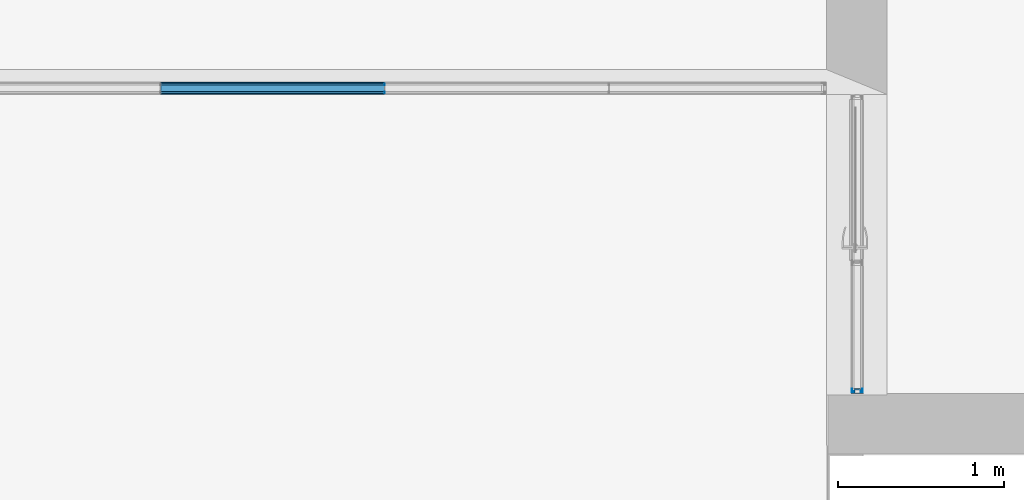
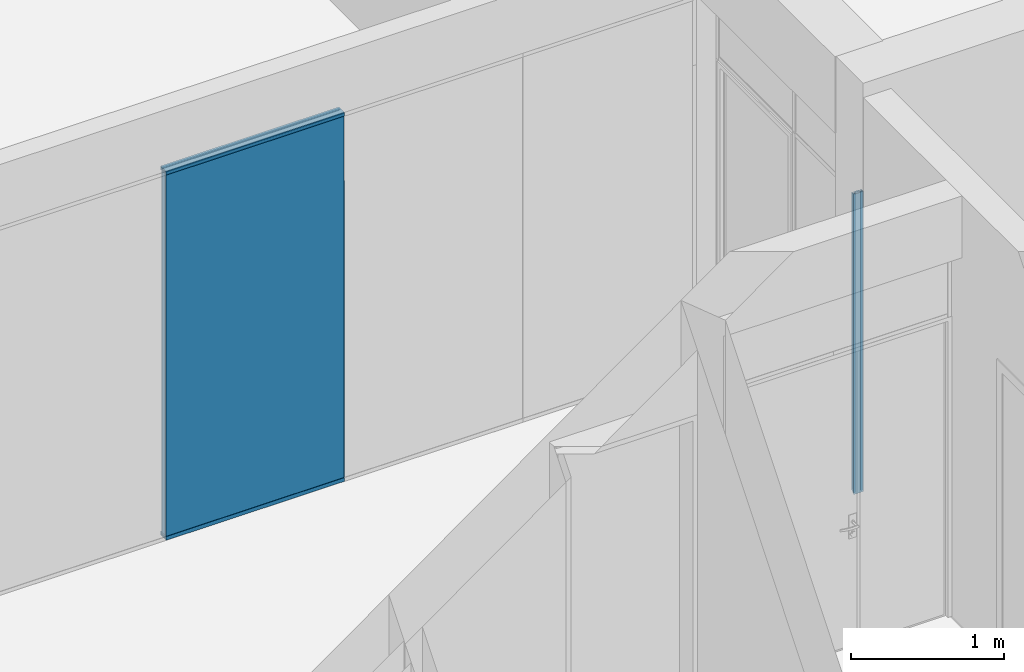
# One storey, part 24 of 89: 9 building element parts, 7 elements without a shape of their own.
"""IFC2X3 building model written with IfcOpenShell, lengths in millimetres."""

from ifc_helpers import new_model, entity, si_unit, converted_unit, derived_unit, money_unit, direction, frame, origin_with_axes, place, context, subcontext, project, spatial, faceted_brep, source, transform, mapped, material, type_object, element, aggregate, save


model = new_model("IFC2X3")

# Units and contexts
model_context = context("Model", 3, precision=0.01, world=origin_with_axes(), true_north=direction((0.0, 1.0)))
body_context = subcontext(model_context, "Body", "Model", "MODEL_VIEW")
ifc_project = project(units=[si_unit("LENGTHUNIT", "METRE", prefix="MILLI"), si_unit("AREAUNIT", "SQUARE_METRE"), si_unit("VOLUMEUNIT", "CUBIC_METRE"), converted_unit("PLANEANGLEUNIT", "DEGREE", entity("IfcPlaneAngleMeasure", 0.0174532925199), si_unit("PLANEANGLEUNIT", "RADIAN"), dimensions=[0, 0, 0, 0, 0, 0, 0]), si_unit("SOLIDANGLEUNIT", "STERADIAN"), money_unit("EUR"), converted_unit("TIMEUNIT", "Year", entity("IfcTimeMeasure", 31556926.0), si_unit("TIMEUNIT", "SECOND"), dimensions=[0, 0, 1, 0, 0, 0, 0]), si_unit("MASSUNIT", "GRAM", prefix="KILO"), si_unit("THERMODYNAMICTEMPERATUREUNIT", "DEGREE_CELSIUS"), si_unit("LUMINOUSINTENSITYUNIT", "LUMEN"), si_unit("ENERGYUNIT", "JOULE", prefix="MEGA"), derived_unit("THERMALCONDUCTANCEUNIT", [(si_unit("POWERUNIT", "WATT"), 1), (si_unit("LENGTHUNIT", "METRE"), -1), (si_unit("THERMODYNAMICTEMPERATUREUNIT", "KELVIN"), -1)]), derived_unit("SPECIFICHEATCAPACITYUNIT", [(si_unit("ENERGYUNIT", "JOULE"), 1), (si_unit("MASSUNIT", "GRAM", prefix="KILO"), -1), (si_unit("THERMODYNAMICTEMPERATUREUNIT", "KELVIN"), -1)]), derived_unit("MASSDENSITYUNIT", [(si_unit("MASSUNIT", "GRAM", prefix="KILO"), 1), (si_unit("VOLUMEUNIT", "CUBIC_METRE"), -1)])], contexts=[model_context])

# Site, building, storey
site_placement = place(None, origin_with_axes())
site = spatial("IfcSite", under=ifc_project, at=site_placement, Name="Puškini 31, Narva", CompositionType="ELEMENT")
building_placement = place(site_placement, origin_with_axes())
building = spatial("IfcBuilding", under=site, at=building_placement, Name="Narva Riigigümnaasium", CompositionType="ELEMENT")
storey_placement = place(building_placement, frame((0.0, 0.0, -3300.0), z_axis=(0.0, 0.0, 1.0), x_axis=(1.0, 0.0, 0.0)))
storey = spatial("IfcBuildingStorey", under=building, at=storey_placement, Name="1.korrus -3.3", CompositionType="ELEMENT", Elevation=-3300.0)

# Curtain wall, member, building element parts
curtain_wall_type = type_object("IfcCurtainWallType", Name="Curtain Wall Type", PredefinedType="NOTDEFINED")
curtain_wall_1_placement = place(storey_placement, frame((47675.0000001, 242632.20006, -3.78005973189e-05), z_axis=(0.0, 0.0, 1.0), x_axis=(1.0, 0.0, 0.0)))
curtain_wall_1 = element("IfcCurtainWall", 1, at=curtain_wall_1_placement, inside=storey, type_object=curtain_wall_type, Name="G-SKLF-10")
member_type_1 = type_object("IfcMemberType", Name="30 x 37", PredefinedType="MULLION")
member_1_placement = place(curtain_wall_1_placement, frame((0.0, -472.200003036, 0.0), z_axis=(0.0, 0.0, 1.0), x_axis=(0.0, 1.0, 0.0)))
member_1 = element("IfcMember", 2, at=member_1_placement, type_object=member_type_1, Name="G-SKLF-10-raam", ObjectType="MULLION")
aggregate(curtain_wall_1, [member_1])
ifc_material_1 = material(Name="Klaasvill")
shared_shape_1 = source(origin_with_axes(), body_context, "Body", "Brep", [
    faceted_brep([(13.8499999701, 20.000000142, 13.8500005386), (13.8499999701, 20.000000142, 2400.00003102), (7.49999990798, 20.000000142, 2400.00003102), (7.49999990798, 20.000000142, 7.5000002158), (13.8499999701, 34.0161444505, 13.8500005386), (13.8499999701, 34.0161444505, 2400.00003102), (7.49999990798, 34.0161444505, 2400.00003102), (7.49999990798, 34.0161444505, 7.5000002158)], [[[0, 1, 2, 3]], [[4, 5, 1, 0]], [[2, 1, 5, 6]], [[3, 2, 6, 7]], [[3, 7, 4, 0]], [[7, 6, 5, 4]]]),
    faceted_brep([(25.004489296, 32.0307503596, 25.0044903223), (25.004489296, 32.0307503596, 2400.00003102), (24.987414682, 34.0161444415, 2400.00003102), (24.987414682, 34.0161444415, 24.9874157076), (25.742237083, 31.2930025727, 25.7422381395), (25.742237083, 31.2930025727, 2400.00003102), (26.7500193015, 31.0229681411, 2400.00003102), (27.75780152, 31.2930025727, 2400.00003102), (28.4955493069, 32.0307503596, 2400.00003102), (28.7655837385, 33.0385325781, 2400.00003102), (28.5126239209, 34.0161444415, 2400.00003102), (28.5126239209, 34.0161444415, 28.5126250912), (28.7655837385, 33.0385325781, 28.7655849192), (28.4955493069, 32.0307503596, 28.4955504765), (27.75780152, 31.2930025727, 27.7578026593), (26.7500193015, 31.0229681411, 26.7500203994)], [[[0, 1, 2, 3]], [[4, 5, 1, 0]], [[2, 1, 5, 6, 7, 8, 9, 10]], [[3, 2, 10, 11]], [[3, 11, 12, 13, 14, 15, 4, 0]], [[15, 6, 5, 4]], [[14, 7, 6, 15]], [[13, 8, 7, 14]], [[12, 9, 8, 13]], [[11, 10, 9, 12]]]),
    faceted_brep([(7.49999990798, -34.0161445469, 7.5000002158), (7.49999990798, -34.0161445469, 2400.00003102), (7.49999990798, -19.9999997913, 2400.00003102), (7.49999990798, -19.9999997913, 7.5000002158), (13.8499999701, -34.0161445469, 13.8500005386), (13.8499999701, -34.0161445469, 2400.00003102), (13.8499999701, -19.9999997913, 2400.00003102), (13.8499999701, -19.9999997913, 13.8500005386)], [[[0, 1, 2, 3]], [[4, 5, 1, 0]], [[2, 1, 5, 6]], [[3, 2, 6, 7]], [[3, 7, 4, 0]], [[7, 6, 5, 4]]]),
    faceted_brep([(24.987414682, -34.0161444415, 24.9874157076), (24.987414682, -34.0161444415, 2400.00003102), (25.004489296, -32.0307503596, 2400.00003102), (25.004489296, -32.0307503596, 25.0044903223), (28.5126239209, -34.0161444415, 28.5126250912), (28.5126239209, -34.0161444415, 2400.00003102), (28.7655837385, -33.0385325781, 2400.00003102), (28.4955493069, -32.0307503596, 2400.00003102), (27.75780152, -31.2930025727, 2400.00003102), (26.7500193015, -31.0229681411, 2400.00003102), (25.742237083, -31.2930025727, 2400.00003102), (25.742237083, -31.2930025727, 25.7422381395), (26.7500193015, -31.0229681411, 26.7500203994), (27.75780152, -31.2930025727, 27.7578026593), (28.4955493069, -32.0307503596, 28.4955504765), (28.7655837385, -33.0385325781, 28.7655849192)], [[[0, 1, 2, 3]], [[4, 5, 1, 0]], [[2, 1, 5, 6, 7, 8, 9, 10]], [[3, 2, 10, 11]], [[3, 11, 12, 13, 14, 15, 4, 0]], [[15, 6, 5, 4]], [[14, 7, 6, 15]], [[13, 8, 7, 14]], [[12, 9, 8, 13]], [[11, 10, 9, 12]]]),
])
building_element_part_1_placement = place(member_1_placement, origin_with_axes())
building_element_part_1 = element("IfcBuildingElementPart", 3, at=building_element_part_1_placement, material=ifc_material_1, Name="Klaasvill", context=body_context, shape_type="MappedRepresentation", body=[
    mapped(shared_shape_1, transform((0.0, 0.0, 0.0))),
])
ifc_material_2 = material(Name="Teras RAL7012")
shared_shape_2 = source(origin_with_axes(), body_context, "Body", "Brep", [
    faceted_brep([(29.5999996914, -17.0000000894, 29.6000009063), (29.5999996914, -17.0000000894, 2400.00003102), (0.0, -17.0000000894, 2400.00003102), (0.0, -17.0000000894, 0.0), (29.5999996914, 17.0000000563, 29.6000009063), (29.5999996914, 17.0000000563, 2400.00003102), (0.0, 17.0000000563, 2400.00003102), (1.9999999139, 15.0000001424, 2400.00003102), (18.7999996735, 15.0000001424, 2400.00003102), (18.7999996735, -15.0000001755, 2400.00003102), (1.9999999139, -15.0000001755, 2400.00003102), (0.0, 17.0000000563, 0.0), (1.9999999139, 15.0000001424, 1.99999999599), (1.9999999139, -15.0000001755, 1.99999999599), (18.7999996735, -15.0000001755, 18.8000004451), (18.7999996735, 15.0000001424, 18.8000004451)], [[[0, 1, 2, 3]], [[4, 5, 1, 0]], [[2, 1, 5, 6], [7, 8, 9, 10]], [[3, 2, 6, 11]], [[3, 11, 4, 0], [12, 13, 14, 15]], [[11, 6, 5, 4]], [[15, 8, 7, 12]], [[14, 9, 8, 15]], [[13, 10, 9, 14]], [[12, 7, 10, 13]]]),
    faceted_brep([(29.5999996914, 17.0000000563, 29.6000009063), (29.5999996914, 17.0000000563, 2400.00003102), (0.0, 17.0, 2400.00003102), (0.0, 17.0, 0.0), (30.0000193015, 17.0, 30.0000205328), (30.0000193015, 17.0, 2400.00003102), (30.0000193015, 20.0, 2400.00003102), (13.8499999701, 20.000000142, 2400.00003102), (7.49999999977, 20.0, 2400.00003102), (7.49999999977, 34.0161444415, 2400.00003102), (13.8499999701, 34.0161444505, 2400.00003102), (24.987414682, 34.0161444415, 2400.00003102), (28.5126239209, 34.0161444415, 2400.00003102), (30.0000193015, 34.0161444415, 2400.00003102), (30.0000193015, 37.0, 2400.00003102), (0.0, 37.0, 2400.00003102), (0.0, 37.0, 0.0), (30.0000193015, 37.0, 30.0000205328), (30.0000193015, 34.0161444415, 30.0000205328), (28.5126239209, 34.0161444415, 28.5126250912), (24.987414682, 34.0161444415, 24.9874157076), (13.8499999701, 34.0161444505, 13.8500005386), (7.49999999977, 34.0161444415, 7.50000030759), (7.49999999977, 20.0, 7.50000030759), (13.8499999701, 20.000000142, 13.8500005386), (30.0000193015, 20.0, 30.0000205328)], [[[0, 1, 2, 3]], [[4, 5, 1, 0]], [[2, 1, 5, 6, 7, 8, 9, 10, 11, 12, 13, 14, 15]], [[3, 2, 15, 16]], [[3, 16, 17, 18, 19, 20, 21, 22, 23, 24, 25, 4, 0]], [[25, 6, 5, 4]], [[24, 7, 6, 25]], [[23, 8, 7, 24]], [[22, 9, 8, 23]], [[21, 10, 9, 22]], [[20, 11, 10, 21]], [[19, 12, 11, 20]], [[18, 13, 12, 19]], [[17, 14, 13, 18]], [[16, 15, 14, 17]]]),
    faceted_brep([(0.0, -37.0, 0.0), (0.0, -37.0, 2400.00003102), (0.0, -17.0, 2400.00003102), (0.0, -17.0, 0.0), (30.0000193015, -37.0, 30.0000205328), (30.0000193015, -37.0, 2400.00003102), (30.0000193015, -34.0161444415, 2400.00003102), (28.5126239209, -34.0161444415, 2400.00003102), (24.987414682, -34.0161444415, 2400.00003102), (13.8499999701, -34.0161445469, 2400.00003102), (7.49999999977, -34.0161444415, 2400.00003102), (7.49999999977, -20.0, 2400.00003102), (13.8499999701, -19.9999997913, 2400.00003102), (30.0000193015, -20.0, 2400.00003102), (30.0000193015, -17.0, 2400.00003102), (29.5999996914, -17.0000000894, 2400.00003102), (29.5999996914, -17.0000000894, 29.6000009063), (30.0000193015, -17.0, 30.0000205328), (30.0000193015, -20.0, 30.0000205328), (13.8499999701, -19.9999997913, 13.8500005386), (7.49999999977, -20.0, 7.50000030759), (7.49999999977, -34.0161444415, 7.50000030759), (13.8499999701, -34.0161445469, 13.8500005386), (24.987414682, -34.0161444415, 24.9874157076), (28.5126239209, -34.0161444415, 28.5126250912), (30.0000193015, -34.0161444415, 30.0000205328)], [[[0, 1, 2, 3]], [[4, 5, 1, 0]], [[2, 1, 5, 6, 7, 8, 9, 10, 11, 12, 13, 14, 15]], [[3, 2, 15, 16]], [[3, 16, 17, 18, 19, 20, 21, 22, 23, 24, 25, 4, 0]], [[25, 6, 5, 4]], [[24, 7, 6, 25]], [[23, 8, 7, 24]], [[22, 9, 8, 23]], [[21, 10, 9, 22]], [[20, 11, 10, 21]], [[19, 12, 11, 20]], [[18, 13, 12, 19]], [[17, 14, 13, 18]], [[16, 15, 14, 17]]]),
])
building_element_part_2_placement = place(member_1_placement, origin_with_axes())
building_element_part_2 = element("IfcBuildingElementPart", 4, at=building_element_part_2_placement, material=ifc_material_2, Name="Teras RAL7012", context=body_context, shape_type="MappedRepresentation", body=[
    mapped(shared_shape_2, transform((0.0, 0.0, 0.0))),
])
aggregate(member_1, [building_element_part_1, building_element_part_2])

# Curtain wall, members, building element parts, plate
curtain_wall_2_placement = place(storey_placement, frame((40014.000008, 243997.000057, -9.155864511e-06), z_axis=(0.0, 0.0, 1.0), x_axis=(1.0, 0.0, 0.0)))
curtain_wall_2 = element("IfcCurtainWall", 5, at=curtain_wall_2_placement, inside=storey, type_object=curtain_wall_type, Name="G-SKLF-09")
member_type_2 = type_object("IfcMemberType", Name="3 x 19", PredefinedType="MULLION")
member_2_placement = place(curtain_wall_2_placement, frame((4813.99999221, 0.0, 0.0), z_axis=(0.0, 0.0, 1.0), x_axis=(-1.0, 0.0, 0.0)))
member_2 = element("IfcMember", 6, at=member_2_placement, type_object=member_type_2, Name="G-SKLF-09-raam", ObjectType="MULLION")
ifc_material_3 = material(Name="Klaas")
shared_shape_3 = source(origin_with_axes(), body_context, "Body", "Brep", [
    faceted_brep([(-1.5000138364, 20.0064497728, 30.0000193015), (1.4999861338, 20.0064497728, 30.0000193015), (1.4999861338, 20.0064497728, 2400.00000716), (-1.5000138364, 20.0064497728, 2400.00000716), (-1.5000138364, 29.0064496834, 30.0000193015), (1.4999861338, 29.0064496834, 30.0000193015), (1.4999861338, 29.0064496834, 2400.00000716), (-1.5000138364, 29.0064496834, 2400.00000716)], [[[0, 1, 2, 3]], [[1, 0, 4, 5]], [[1, 5, 6, 2]], [[2, 6, 7, 3]], [[4, 0, 3, 7]], [[5, 4, 7, 6]]]),
    faceted_brep([(1.4999861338, -28.9935503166, 30.0000193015), (1.4999861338, -19.993550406, 30.0000193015), (1.4999861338, -19.993550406, 2400.00000716), (1.4999861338, -28.9935503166, 2400.00000716), (-1.5000138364, -28.9935503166, 30.0000193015), (-1.5000138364, -19.993550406, 30.0000193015), (-1.5000138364, -19.993550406, 2400.00000716), (-1.5000138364, -28.9935503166, 2400.00000716)], [[[0, 1, 2, 3]], [[1, 0, 4, 5]], [[1, 5, 6, 2]], [[2, 6, 7, 3]], [[4, 0, 3, 7]], [[5, 4, 7, 6]]]),
])
building_element_part_3_placement = place(member_2_placement, origin_with_axes())
building_element_part_3 = element("IfcBuildingElementPart", 7, at=building_element_part_3_placement, material=ifc_material_3, Name="Klaas", context=body_context, shape_type="MappedRepresentation", body=[
    mapped(shared_shape_3, transform((0.0, 0.0, 0.0), x_axis=(-1.0, 0.0, 0.0), y_axis=(0.0, -1.0, 0.0), z_axis=(0.0, 0.0, 1.0))),
])
aggregate(member_2, [building_element_part_3])
member_type_3 = type_object("IfcMemberType", Name="30 x -83", PredefinedType="MULLION")
member_3_placement = place(curtain_wall_2_placement, frame((3463.99999221, 0.0, 2950.00000716), z_axis=(1.0, 0.0, 0.0), x_axis=(0.0, 0.0, 1.0)))
member_3 = element("IfcMember", 8, at=member_3_placement, type_object=member_type_3, Name="G-SKLF-49-raam", ObjectType="MULLION")
shared_shape_4 = source(origin_with_axes(), body_context, "Body", "Brep", [
    faceted_brep([(7.49999990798, 20.000000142, 0.0), (13.8499999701, 20.000000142, 0.0), (13.8499999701, 20.000000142, 1350.0), (7.49999990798, 20.000000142, 1350.0), (7.49999990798, 34.0161444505, 0.0), (13.8499999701, 34.0161444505, 0.0), (13.8499999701, 34.0161444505, 1350.0), (7.49999990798, 34.0161444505, 1350.0)], [[[0, 1, 2, 3]], [[0, 4, 5, 1]], [[1, 5, 6, 2]], [[3, 2, 6, 7]], [[4, 0, 3, 7]], [[5, 4, 7, 6]]]),
    faceted_brep([(24.987414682, 34.0161444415, 0.0), (25.004489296, 32.0307503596, 0.0), (25.004489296, 32.0307503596, 1350.0), (24.987414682, 34.0161444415, 1350.0), (28.5126239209, 34.0161444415, 0.0), (28.7655837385, 33.0385325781, 0.0), (28.4955493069, 32.0307503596, 0.0), (27.75780152, 31.2930025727, 0.0), (26.7500193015, 31.0229681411, 0.0), (25.742237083, 31.2930025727, 0.0), (25.742237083, 31.2930025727, 1350.0), (26.7500193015, 31.0229681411, 1350.0), (27.75780152, 31.2930025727, 1350.0), (28.4955493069, 32.0307503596, 1350.0), (28.7655837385, 33.0385325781, 1350.0), (28.5126239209, 34.0161444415, 1350.0)], [[[0, 1, 2, 3]], [[0, 4, 5, 6, 7, 8, 9, 1]], [[1, 9, 10, 2]], [[3, 2, 10, 11, 12, 13, 14, 15]], [[4, 0, 3, 15]], [[5, 4, 15, 14]], [[6, 5, 14, 13]], [[7, 6, 13, 12]], [[8, 7, 12, 11]], [[9, 8, 11, 10]]]),
    faceted_brep([(7.49999990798, -19.9999997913, 0.0), (7.49999990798, -34.0161445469, 0.0), (7.49999990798, -34.0161445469, 1350.0), (7.49999990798, -19.9999997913, 1350.0), (13.8499999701, -19.9999997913, 0.0), (13.8499999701, -34.0161445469, 0.0), (13.8499999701, -34.0161445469, 1350.0), (13.8499999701, -19.9999997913, 1350.0)], [[[0, 1, 2, 3]], [[0, 4, 5, 1]], [[1, 5, 6, 2]], [[3, 2, 6, 7]], [[4, 0, 3, 7]], [[5, 4, 7, 6]]]),
    faceted_brep([(25.004489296, -32.0307503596, 0.0), (24.987414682, -34.0161444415, 0.0), (24.987414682, -34.0161444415, 1350.0), (25.004489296, -32.0307503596, 1350.0), (25.742237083, -31.2930025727, 0.0), (26.7500193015, -31.0229681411, 0.0), (27.75780152, -31.2930025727, 0.0), (28.4955493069, -32.0307503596, 0.0), (28.7655837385, -33.0385325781, 0.0), (28.5126239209, -34.0161444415, 0.0), (28.5126239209, -34.0161444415, 1350.0), (28.7655837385, -33.0385325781, 1350.0), (28.4955493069, -32.0307503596, 1350.0), (27.75780152, -31.2930025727, 1350.0), (26.7500193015, -31.0229681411, 1350.0), (25.742237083, -31.2930025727, 1350.0)], [[[0, 1, 2, 3]], [[0, 4, 5, 6, 7, 8, 9, 1]], [[1, 9, 10, 2]], [[3, 2, 10, 11, 12, 13, 14, 15]], [[4, 0, 3, 15]], [[5, 4, 15, 14]], [[6, 5, 14, 13]], [[7, 6, 13, 12]], [[8, 7, 12, 11]], [[9, 8, 11, 10]]]),
])
building_element_part_4_placement = place(member_3_placement, origin_with_axes())
building_element_part_4 = element("IfcBuildingElementPart", 9, at=building_element_part_4_placement, material=ifc_material_1, Name="Klaasvill", context=body_context, shape_type="MappedRepresentation", body=[
    mapped(shared_shape_4, transform((0.0, 0.0, 0.0), x_axis=(-1.0, 0.0, 0.0), y_axis=(0.0, -1.0, 0.0), z_axis=(0.0, 0.0, 1.0))),
])
shared_shape_5 = source(origin_with_axes(), body_context, "Body", "Brep", [
    faceted_brep([(0.0, -17.0000000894, 0.0), (29.5999996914, -17.0000000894, 0.0), (29.5999996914, -17.0000000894, 1350.0), (0.0, -17.0000000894, 1350.0), (0.0, 17.0000000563, 0.0), (29.5999996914, 17.0000000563, 0.0), (1.9999999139, 15.0000001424, 0.0), (1.9999999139, -15.0000001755, 0.0), (18.7999996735, -15.0000001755, 0.0), (18.7999996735, 15.0000001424, 0.0), (29.5999996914, 17.0000000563, 1350.0), (0.0, 17.0000000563, 1350.0), (1.9999999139, 15.0000001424, 1350.0), (18.7999996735, 15.0000001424, 1350.0), (18.7999996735, -15.0000001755, 1350.0), (1.9999999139, -15.0000001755, 1350.0)], [[[0, 1, 2, 3]], [[0, 4, 5, 1], [6, 7, 8, 9]], [[1, 5, 10, 2]], [[3, 2, 10, 11], [12, 13, 14, 15]], [[4, 0, 3, 11]], [[5, 4, 11, 10]], [[7, 6, 12, 15]], [[8, 7, 15, 14]], [[9, 8, 14, 13]], [[6, 9, 13, 12]]]),
    faceted_brep([(0.0, 17.0, 0.0), (29.5999996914, 17.0000000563, 0.0), (29.5999996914, 17.0000000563, 1350.0), (0.0, 17.0, 1350.0), (0.0, 37.0, 0.0), (30.0000193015, 37.0, 0.0), (30.0000193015, 34.0161444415, 0.0), (28.5126239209, 34.0161444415, 0.0), (24.987414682, 34.0161444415, 0.0), (13.8499999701, 34.0161444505, 0.0), (7.49999999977, 34.0161444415, 0.0), (7.49999999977, 20.0, 0.0), (13.8499999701, 20.000000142, 0.0), (30.0000193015, 20.0, 0.0), (30.0000193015, 17.0, 0.0), (30.0000193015, 17.0, 1350.0), (30.0000193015, 20.0, 1350.0), (13.8499999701, 20.000000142, 1350.0), (7.49999999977, 20.0, 1350.0), (7.49999999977, 34.0161444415, 1350.0), (13.8499999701, 34.0161444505, 1350.0), (24.987414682, 34.0161444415, 1350.0), (28.5126239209, 34.0161444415, 1350.0), (30.0000193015, 34.0161444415, 1350.0), (30.0000193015, 37.0, 1350.0), (0.0, 37.0, 1350.0)], [[[0, 1, 2, 3]], [[0, 4, 5, 6, 7, 8, 9, 10, 11, 12, 13, 14, 1]], [[1, 14, 15, 2]], [[3, 2, 15, 16, 17, 18, 19, 20, 21, 22, 23, 24, 25]], [[4, 0, 3, 25]], [[5, 4, 25, 24]], [[6, 5, 24, 23]], [[7, 6, 23, 22]], [[8, 7, 22, 21]], [[9, 8, 21, 20]], [[10, 9, 20, 19]], [[11, 10, 19, 18]], [[12, 11, 18, 17]], [[13, 12, 17, 16]], [[14, 13, 16, 15]]]),
    faceted_brep([(0.0, -17.0, 0.0), (0.0, -37.0, 0.0), (0.0, -37.0, 1350.0), (0.0, -17.0, 1350.0), (29.5999996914, -17.0000000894, 0.0), (30.0000193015, -17.0, 0.0), (30.0000193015, -20.0, 0.0), (13.8499999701, -19.9999997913, 0.0), (7.49999999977, -20.0, 0.0), (7.49999999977, -34.0161444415, 0.0), (13.8499999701, -34.0161445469, 0.0), (24.987414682, -34.0161444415, 0.0), (28.5126239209, -34.0161444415, 0.0), (30.0000193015, -34.0161444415, 0.0), (30.0000193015, -37.0, 0.0), (30.0000193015, -37.0, 1350.0), (30.0000193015, -34.0161444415, 1350.0), (28.5126239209, -34.0161444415, 1350.0), (24.987414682, -34.0161444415, 1350.0), (13.8499999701, -34.0161445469, 1350.0), (7.49999999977, -34.0161444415, 1350.0), (7.49999999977, -20.0, 1350.0), (13.8499999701, -19.9999997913, 1350.0), (30.0000193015, -20.0, 1350.0), (30.0000193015, -17.0, 1350.0), (29.5999996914, -17.0000000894, 1350.0)], [[[0, 1, 2, 3]], [[0, 4, 5, 6, 7, 8, 9, 10, 11, 12, 13, 14, 1]], [[1, 14, 15, 2]], [[3, 2, 15, 16, 17, 18, 19, 20, 21, 22, 23, 24, 25]], [[4, 0, 3, 25]], [[5, 4, 25, 24]], [[6, 5, 24, 23]], [[7, 6, 23, 22]], [[8, 7, 22, 21]], [[9, 8, 21, 20]], [[10, 9, 20, 19]], [[11, 10, 19, 18]], [[12, 11, 18, 17]], [[13, 12, 17, 16]], [[14, 13, 16, 15]]]),
])
building_element_part_5_placement = place(member_3_placement, origin_with_axes())
building_element_part_5 = element("IfcBuildingElementPart", 10, at=building_element_part_5_placement, material=ifc_material_2, Name="Teras RAL7012", context=body_context, shape_type="MappedRepresentation", body=[
    mapped(shared_shape_5, transform((0.0, 0.0, 0.0), x_axis=(-1.0, 0.0, 0.0), y_axis=(0.0, -1.0, 0.0), z_axis=(0.0, 0.0, 1.0))),
])
aggregate(member_3, [building_element_part_4, building_element_part_5])
member_4_placement = place(curtain_wall_2_placement, frame((3463.99999221, 0.0, 0.0), z_axis=(1.0, 0.0, 0.0), x_axis=(0.0, 0.0, 1.0)))
member_4 = element("IfcMember", 11, at=member_4_placement, type_object=member_type_3, Name="G-SKLF-42-raam", ObjectType="MULLION")
shared_shape_6 = source(origin_with_axes(), body_context, "Body", "Brep", [
    faceted_brep([(-7.49999990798, 20.000000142, 0.0), (-7.49999990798, 20.000000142, 1350.0), (-13.8499999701, 20.000000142, 1350.0), (-13.8499999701, 20.000000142, 0.0), (-7.49999990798, 34.0161444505, 0.0), (-7.49999990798, 34.0161444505, 1350.0), (-13.8499999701, 34.0161444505, 1350.0), (-13.8499999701, 34.0161444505, 0.0)], [[[0, 1, 2, 3]], [[4, 5, 1, 0]], [[1, 5, 6, 2]], [[3, 2, 6, 7]], [[0, 3, 7, 4]], [[7, 6, 5, 4]]]),
    faceted_brep([(-24.987414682, 34.0161444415, 0.0), (-24.987414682, 34.0161444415, 1350.0), (-25.004489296, 32.0307503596, 1350.0), (-25.004489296, 32.0307503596, 0.0), (-28.5126239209, 34.0161444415, 0.0), (-28.5126239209, 34.0161444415, 1350.0), (-28.7655837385, 33.0385325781, 1350.0), (-28.4955493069, 32.0307503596, 1350.0), (-27.75780152, 31.2930025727, 1350.0), (-26.7500193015, 31.0229681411, 1350.0), (-25.742237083, 31.2930025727, 1350.0), (-25.742237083, 31.2930025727, 0.0), (-26.7500193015, 31.0229681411, 0.0), (-27.75780152, 31.2930025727, 0.0), (-28.4955493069, 32.0307503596, 0.0), (-28.7655837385, 33.0385325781, 0.0)], [[[0, 1, 2, 3]], [[4, 5, 1, 0]], [[1, 5, 6, 7, 8, 9, 10, 2]], [[3, 2, 10, 11]], [[0, 3, 11, 12, 13, 14, 15, 4]], [[15, 6, 5, 4]], [[14, 7, 6, 15]], [[13, 8, 7, 14]], [[12, 9, 8, 13]], [[11, 10, 9, 12]]]),
    faceted_brep([(-7.49999990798, -19.9999997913, 0.0), (-7.49999990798, -19.9999997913, 1350.0), (-7.49999990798, -34.0161445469, 1350.0), (-7.49999990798, -34.0161445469, 0.0), (-13.8499999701, -19.9999997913, 0.0), (-13.8499999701, -19.9999997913, 1350.0), (-13.8499999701, -34.0161445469, 1350.0), (-13.8499999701, -34.0161445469, 0.0)], [[[0, 1, 2, 3]], [[4, 5, 1, 0]], [[1, 5, 6, 2]], [[3, 2, 6, 7]], [[0, 3, 7, 4]], [[7, 6, 5, 4]]]),
    faceted_brep([(-25.004489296, -32.0307503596, 0.0), (-25.004489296, -32.0307503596, 1350.0), (-24.987414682, -34.0161444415, 1350.0), (-24.987414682, -34.0161444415, 0.0), (-25.742237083, -31.2930025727, 0.0), (-25.742237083, -31.2930025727, 1350.0), (-26.7500193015, -31.0229681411, 1350.0), (-27.75780152, -31.2930025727, 1350.0), (-28.4955493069, -32.0307503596, 1350.0), (-28.7655837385, -33.0385325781, 1350.0), (-28.5126239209, -34.0161444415, 1350.0), (-28.5126239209, -34.0161444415, 0.0), (-28.7655837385, -33.0385325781, 0.0), (-28.4955493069, -32.0307503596, 0.0), (-27.75780152, -31.2930025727, 0.0), (-26.7500193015, -31.0229681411, 0.0)], [[[0, 1, 2, 3]], [[4, 5, 1, 0]], [[1, 5, 6, 7, 8, 9, 10, 2]], [[3, 2, 10, 11]], [[0, 3, 11, 12, 13, 14, 15, 4]], [[15, 6, 5, 4]], [[14, 7, 6, 15]], [[13, 8, 7, 14]], [[12, 9, 8, 13]], [[11, 10, 9, 12]]]),
])
building_element_part_6_placement = place(member_4_placement, origin_with_axes())
building_element_part_6 = element("IfcBuildingElementPart", 12, at=building_element_part_6_placement, material=ifc_material_1, Name="Klaasvill", context=body_context, shape_type="MappedRepresentation", body=[
    mapped(shared_shape_6, transform((0.0, 0.0, 0.0), x_axis=(-1.0, 0.0, 0.0), y_axis=(0.0, -1.0, 0.0), z_axis=(0.0, 0.0, 1.0))),
])
shared_shape_7 = source(origin_with_axes(), body_context, "Body", "Brep", [
    faceted_brep([(0.0, -17.0000000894, 0.0), (0.0, -17.0000000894, 1350.0), (-29.5999996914, -17.0000000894, 1350.0), (-29.5999996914, -17.0000000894, 0.0), (0.0, 17.0000000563, 0.0), (0.0, 17.0000000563, 1350.0), (-29.5999996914, 17.0000000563, 1350.0), (-1.9999999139, 15.0000001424, 1350.0), (-1.9999999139, -15.0000001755, 1350.0), (-18.7999996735, -15.0000001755, 1350.0), (-18.7999996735, 15.0000001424, 1350.0), (-29.5999996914, 17.0000000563, 0.0), (-1.9999999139, 15.0000001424, 0.0), (-18.7999996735, 15.0000001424, 0.0), (-18.7999996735, -15.0000001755, 0.0), (-1.9999999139, -15.0000001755, 0.0)], [[[0, 1, 2, 3]], [[4, 5, 1, 0]], [[1, 5, 6, 2], [7, 8, 9, 10]], [[3, 2, 6, 11]], [[0, 3, 11, 4], [12, 13, 14, 15]], [[11, 6, 5, 4]], [[15, 8, 7, 12]], [[14, 9, 8, 15]], [[13, 10, 9, 14]], [[12, 7, 10, 13]]]),
    faceted_brep([(0.0, 17.0, 0.0), (0.0, 17.0, 1350.0), (-29.5999996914, 17.0000000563, 1350.0), (-29.5999996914, 17.0000000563, 0.0), (0.0, 37.0, 0.0), (0.0, 37.0, 1350.0), (-30.0000193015, 37.0, 1350.0), (-30.0000193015, 34.0161444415, 1350.0), (-28.5126239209, 34.0161444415, 1350.0), (-24.987414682, 34.0161444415, 1350.0), (-13.8499999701, 34.0161444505, 1350.0), (-7.49999999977, 34.0161444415, 1350.0), (-7.49999999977, 20.0, 1350.0), (-13.8499999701, 20.000000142, 1350.0), (-30.0000193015, 20.0, 1350.0), (-30.0000193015, 17.0, 1350.0), (-30.0000193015, 17.0, 0.0), (-30.0000193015, 20.0, 0.0), (-13.8499999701, 20.000000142, 0.0), (-7.49999999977, 20.0, 0.0), (-7.49999999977, 34.0161444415, 0.0), (-13.8499999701, 34.0161444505, 0.0), (-24.987414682, 34.0161444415, 0.0), (-28.5126239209, 34.0161444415, 0.0), (-30.0000193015, 34.0161444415, 0.0), (-30.0000193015, 37.0, 0.0)], [[[0, 1, 2, 3]], [[4, 5, 1, 0]], [[1, 5, 6, 7, 8, 9, 10, 11, 12, 13, 14, 15, 2]], [[3, 2, 15, 16]], [[0, 3, 16, 17, 18, 19, 20, 21, 22, 23, 24, 25, 4]], [[25, 6, 5, 4]], [[24, 7, 6, 25]], [[23, 8, 7, 24]], [[22, 9, 8, 23]], [[21, 10, 9, 22]], [[20, 11, 10, 21]], [[19, 12, 11, 20]], [[18, 13, 12, 19]], [[17, 14, 13, 18]], [[16, 15, 14, 17]]]),
    faceted_brep([(0.0, -17.0, 0.0), (0.0, -17.0, 1350.0), (0.0, -37.0, 1350.0), (0.0, -37.0, 0.0), (-29.5999996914, -17.0000000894, 0.0), (-29.5999996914, -17.0000000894, 1350.0), (-30.0000193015, -17.0, 1350.0), (-30.0000193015, -20.0, 1350.0), (-13.8499999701, -19.9999997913, 1350.0), (-7.49999999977, -20.0, 1350.0), (-7.49999999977, -34.0161444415, 1350.0), (-13.8499999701, -34.0161445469, 1350.0), (-24.987414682, -34.0161444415, 1350.0), (-28.5126239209, -34.0161444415, 1350.0), (-30.0000193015, -34.0161444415, 1350.0), (-30.0000193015, -37.0, 1350.0), (-30.0000193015, -37.0, 0.0), (-30.0000193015, -34.0161444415, 0.0), (-28.5126239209, -34.0161444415, 0.0), (-24.987414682, -34.0161444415, 0.0), (-13.8499999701, -34.0161445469, 0.0), (-7.49999999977, -34.0161444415, 0.0), (-7.49999999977, -20.0, 0.0), (-13.8499999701, -19.9999997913, 0.0), (-30.0000193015, -20.0, 0.0), (-30.0000193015, -17.0, 0.0)], [[[0, 1, 2, 3]], [[4, 5, 1, 0]], [[1, 5, 6, 7, 8, 9, 10, 11, 12, 13, 14, 15, 2]], [[3, 2, 15, 16]], [[0, 3, 16, 17, 18, 19, 20, 21, 22, 23, 24, 25, 4]], [[25, 6, 5, 4]], [[24, 7, 6, 25]], [[23, 8, 7, 24]], [[22, 9, 8, 23]], [[21, 10, 9, 22]], [[20, 11, 10, 21]], [[19, 12, 11, 20]], [[18, 13, 12, 19]], [[17, 14, 13, 18]], [[16, 15, 14, 17]]]),
])
building_element_part_7_placement = place(member_4_placement, origin_with_axes())
building_element_part_7 = element("IfcBuildingElementPart", 13, at=building_element_part_7_placement, material=ifc_material_2, Name="Teras RAL7012", context=body_context, shape_type="MappedRepresentation", body=[
    mapped(shared_shape_7, transform((0.0, 0.0, 0.0), x_axis=(-1.0, 0.0, 0.0), y_axis=(0.0, -1.0, 0.0), z_axis=(0.0, 0.0, 1.0))),
])
aggregate(member_4, [building_element_part_6, building_element_part_7])
plate_type = type_object("IfcPlateType", Name="Siseklaasfassaad - Klaas 1347 x 535 x 10", PredefinedType="CURTAIN_PANEL")
plate_placement = place(curtain_wall_2_placement, frame((4138.99999221, 0.0, 1783.33333811), z_axis=(0.0, 0.0, 1.0), x_axis=(-1.0, 0.0, 0.0)))
plate = element("IfcPlate", 14, at=plate_placement, type_object=plate_type, Name="G-SKLF-09-klaas", ObjectType="CURTAIN_PANEL")
aggregate(curtain_wall_2, [member_3, member_4, member_2, plate])
ifc_material_4 = material(Name="VKR-05_Klaas")
shared_shape_8 = source(origin_with_axes(), body_context, "Body", "Brep", [
    faceted_brep([(-1348.50001817, 2935.00001532, -29.0), (-1348.50001817, 2935.00001532, -20.0), (-1.49999478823, 2935.00001532, -20.0), (-1.49999478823, 2935.00001532, -29.0), (-1348.50001817, 14.9999918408, -29.0), (-1348.50001817, 14.9999918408, -20.0), (-1.49999478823, 14.9999918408, -20.0), (-1.49999478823, 14.9999918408, -29.0)], [[[0, 1, 2, 3]], [[4, 5, 1, 0]], [[1, 5, 6, 2]], [[3, 2, 6, 7]], [[0, 3, 7, 4]], [[7, 6, 5, 4]]]),
    faceted_brep([(-1348.50001817, 2935.00001532, 20.0), (-1348.50001817, 2935.00001532, 29.0), (-1.49999478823, 2935.00001532, 29.0), (-1.49999478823, 2935.00001532, 20.0), (-1348.50001817, 14.9999918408, 20.0), (-1348.50001817, 14.9999918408, 29.0), (-1.49999478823, 14.9999918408, 29.0), (-1.49999478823, 14.9999918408, 20.0)], [[[0, 1, 2, 3]], [[4, 5, 1, 0]], [[1, 5, 6, 2]], [[3, 2, 6, 7]], [[0, 3, 7, 4]], [[7, 6, 5, 4]]]),
])
building_element_part_8_placement = place(plate_placement, origin_with_axes())
building_element_part_8 = element("IfcBuildingElementPart", 15, at=building_element_part_8_placement, material=ifc_material_4, Name="VKR-05_Klaas", context=body_context, shape_type="MappedRepresentation", body=[
    mapped(shared_shape_8, transform((675.0, 0.0, -1783.33333811), x_axis=(1.0, 0.0, 0.0), y_axis=(0.0, 0.0, 1.0), z_axis=(0.0, -1.0, 0.0))),
])
ifc_material_5 = material(Name="VKR-06_Õhkvahe")
shared_shape_9 = source(origin_with_axes(), body_context, "Body", "Brep", [
    faceted_brep([(-1348.50001817, 2935.00001532, -20.0), (-1348.50001817, 2935.00001532, 20.0), (-1.49999478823, 2935.00001532, 20.0), (-1.49999478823, 2935.00001532, -20.0), (-1348.50001817, 14.9999918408, -20.0), (-1348.50001817, 14.9999918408, 20.0), (-1.49999478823, 14.9999918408, 20.0), (-1.49999478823, 14.9999918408, -20.0)], [[[0, 1, 2, 3]], [[4, 5, 1, 0]], [[1, 5, 6, 2]], [[3, 2, 6, 7]], [[0, 3, 7, 4]], [[7, 6, 5, 4]]]),
])
building_element_part_9_placement = place(plate_placement, origin_with_axes())
building_element_part_9 = element("IfcBuildingElementPart", 16, at=building_element_part_9_placement, material=ifc_material_5, Name="VKR-06_Õhkvahe", context=body_context, shape_type="MappedRepresentation", body=[
    mapped(shared_shape_9, transform((675.0, 0.0, -1783.33333811), x_axis=(1.0, 0.0, 0.0), y_axis=(0.0, 0.0, 1.0), z_axis=(0.0, -1.0, 0.0))),
])
aggregate(plate, [building_element_part_8, building_element_part_9])

save(model, "model.ifc")
